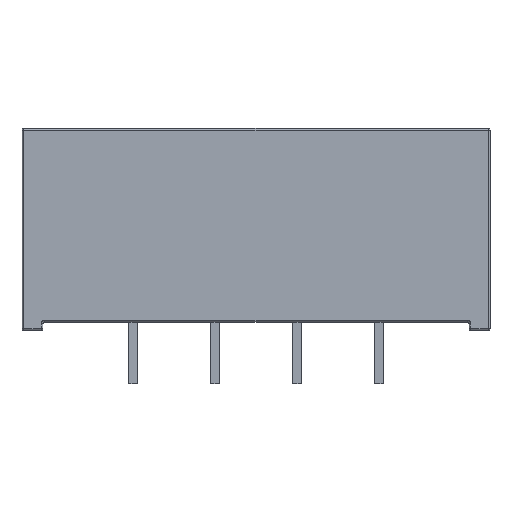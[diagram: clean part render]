
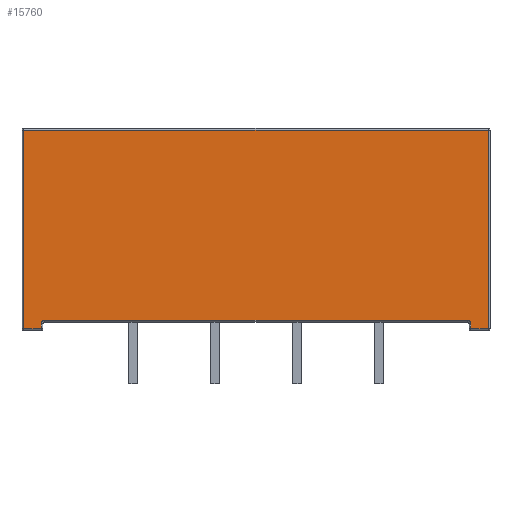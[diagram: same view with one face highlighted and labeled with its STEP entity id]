
A CAD part, top view. The second image highlights one B-rep face of the part: STEP entity #15760.
In plain terms, the highlighted planar face has unit normal (0, 0, 1).
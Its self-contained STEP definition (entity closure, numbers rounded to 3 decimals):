
#15701 = ORIENTED_EDGE ( 'NONE', *, *, #15702, .T. ) ;
#15702 = EDGE_CURVE ( 'NONE', #15788, #15703, #22567, .T. ) ;
#15703 = VERTEX_POINT ( 'NONE', #22563 ) ;
#15704 = ORIENTED_EDGE ( 'NONE', *, *, #15705, .T. ) ;
#15705 = EDGE_CURVE ( 'NONE', #15703, #15706, #22562, .T. ) ;
#15706 = VERTEX_POINT ( 'NONE', #22558 ) ;
#15707 = ORIENTED_EDGE ( 'NONE', *, *, #15708, .T. ) ;
#15708 = EDGE_CURVE ( 'NONE', #15706, #15709, #22557, .T. ) ;
#15709 = VERTEX_POINT ( 'NONE', #22553 ) ;
#15710 = ORIENTED_EDGE ( 'NONE', *, *, #15716, .T. ) ;
#15711 = VERTEX_POINT ( 'NONE', #22552 ) ;
#15716 = EDGE_CURVE ( 'NONE', #15709, #15711, #22544, .T. ) ;
#15717 = ORIENTED_EDGE ( 'NONE', *, *, #15719, .T. ) ;
#15719 = EDGE_CURVE ( 'NONE', #15711, #15720, #22604, .T. ) ;
#15720 = VERTEX_POINT ( 'NONE', #22600 ) ;
#15721 = ORIENTED_EDGE ( 'NONE', *, *, #15722, .T. ) ;
#15722 = EDGE_CURVE ( 'NONE', #15720, #15765, #22599, .T. ) ;
#15760 = ADVANCED_FACE ( 'NONE', ( #22651 ), #22649, .F. ) ;
#15761 = EDGE_LOOP ( 'NONE', ( #15762, #15766, #15769, #15786, #15701, #15704, #15707, #15710, #15717, #15721 ) ) ;
#15762 = ORIENTED_EDGE ( 'NONE', *, *, #15763, .F. ) ;
#15763 = EDGE_CURVE ( 'NONE', #15764, #15765, #22644, .T. ) ;
#15764 = VERTEX_POINT ( 'NONE', #22640 ) ;
#15765 = VERTEX_POINT ( 'NONE', #22639 ) ;
#15766 = ORIENTED_EDGE ( 'NONE', *, *, #15767, .T. ) ;
#15767 = EDGE_CURVE ( 'NONE', #15764, #15768, #22638, .T. ) ;
#15768 = VERTEX_POINT ( 'NONE', #22697 ) ;
#15769 = ORIENTED_EDGE ( 'NONE', *, *, #15770, .F. ) ;
#15770 = EDGE_CURVE ( 'NONE', #15771, #15768, #22696, .T. ) ;
#15771 = VERTEX_POINT ( 'NONE', #22691 ) ;
#15786 = ORIENTED_EDGE ( 'NONE', *, *, #15787, .T. ) ;
#15787 = EDGE_CURVE ( 'NONE', #15771, #15788, #22728, .T. ) ;
#15788 = VERTEX_POINT ( 'NONE', #22724 ) ;
#22541 = DIRECTION ( 'NONE',  ( 0., -1., 0. ) ) ;
#22542 = VECTOR ( 'NONE', #22541, 1000. ) ;
#22543 = CARTESIAN_POINT ( 'NONE',  ( -14.4, 11.992, 3.11 ) ) ;
#22544 = LINE ( 'NONE', #22543, #22542 ) ;
#22552 = CARTESIAN_POINT ( 'NONE',  ( -14.4, -0.408, 3.11 ) ) ;
#22553 = CARTESIAN_POINT ( 'NONE',  ( -14.4, 11.892, 3.11 ) ) ;
#22554 = DIRECTION ( 'NONE',  ( -1., 0., 0. ) ) ;
#22555 = VECTOR ( 'NONE', #22554, 1000. ) ;
#22556 = CARTESIAN_POINT ( 'NONE',  ( -14.5, 11.892, 3.11 ) ) ;
#22557 = LINE ( 'NONE', #22556, #22555 ) ;
#22558 = CARTESIAN_POINT ( 'NONE',  ( 14.4, 11.892, 3.11 ) ) ;
#22559 = DIRECTION ( 'NONE',  ( 0., 1., 0. ) ) ;
#22560 = VECTOR ( 'NONE', #22559, 1000. ) ;
#22561 = CARTESIAN_POINT ( 'NONE',  ( 14.4, 11.992, 3.11 ) ) ;
#22562 = LINE ( 'NONE', #22561, #22560 ) ;
#22563 = CARTESIAN_POINT ( 'NONE',  ( 14.4, -0.408, 3.11 ) ) ;
#22564 = DIRECTION ( 'NONE',  ( 1., 0., 0. ) ) ;
#22565 = VECTOR ( 'NONE', #22564, 1000. ) ;
#22566 = CARTESIAN_POINT ( 'NONE',  ( 14.5, -0.408, 3.11 ) ) ;
#22567 = LINE ( 'NONE', #22566, #22565 ) ;
#22596 = DIRECTION ( 'NONE',  ( 0., 1., 0. ) ) ;
#22597 = VECTOR ( 'NONE', #22596, 1000. ) ;
#22598 = CARTESIAN_POINT ( 'NONE',  ( -13.3, 11.992, 3.11 ) ) ;
#22599 = LINE ( 'NONE', #22598, #22597 ) ;
#22600 = CARTESIAN_POINT ( 'NONE',  ( -13.3, -0.408, 3.11 ) ) ;
#22601 = DIRECTION ( 'NONE',  ( 1., 0., 0. ) ) ;
#22602 = VECTOR ( 'NONE', #22601, 1000. ) ;
#22603 = CARTESIAN_POINT ( 'NONE',  ( -13.2, -0.408, 3.11 ) ) ;
#22604 = LINE ( 'NONE', #22603, #22602 ) ;
#22637 = CARTESIAN_POINT ( 'NONE',  ( 14.5, 0.1, 3.11 ) ) ;
#22638 = LINE ( 'NONE', #22637, #22699 ) ;
#22639 = CARTESIAN_POINT ( 'NONE',  ( -13.3, -0.1, 3.11 ) ) ;
#22640 = CARTESIAN_POINT ( 'NONE',  ( -13.1, 0.1, 3.11 ) ) ;
#22641 = DIRECTION ( 'NONE',  ( -1., 0., 0. ) ) ;
#22642 = DIRECTION ( 'NONE',  ( 0., 0., 1. ) ) ;
#22643 = AXIS2_PLACEMENT_3D ( 'NONE', #22650, #22642, #22641 ) ;
#22644 = CIRCLE ( 'NONE', #22643, 0.2 ) ;
#22645 = DIRECTION ( 'NONE',  ( -1., 0., 0. ) ) ;
#22646 = DIRECTION ( 'NONE',  ( 0., 0., -1. ) ) ;
#22647 = CARTESIAN_POINT ( 'NONE',  ( 14.5, 11.992, 3.11 ) ) ;
#22648 = AXIS2_PLACEMENT_3D ( 'NONE', #22647, #22646, #22645 ) ;
#22649 = PLANE ( 'NONE',  #22648 ) ;
#22650 = CARTESIAN_POINT ( 'NONE',  ( -13.1, -0.1, 3.11 ) ) ;
#22651 = FACE_OUTER_BOUND ( 'NONE', #15761, .T. ) ;
#22691 = CARTESIAN_POINT ( 'NONE',  ( 13.3, -0.1, 3.11 ) ) ;
#22692 = DIRECTION ( 'NONE',  ( -1., 0., 0. ) ) ;
#22693 = DIRECTION ( 'NONE',  ( 0., 0., 1. ) ) ;
#22694 = CARTESIAN_POINT ( 'NONE',  ( 13.1, -0.1, 3.11 ) ) ;
#22695 = AXIS2_PLACEMENT_3D ( 'NONE', #22694, #22693, #22692 ) ;
#22696 = CIRCLE ( 'NONE', #22695, 0.2 ) ;
#22697 = CARTESIAN_POINT ( 'NONE',  ( 13.1, 0.1, 3.11 ) ) ;
#22698 = DIRECTION ( 'NONE',  ( 1., 0., 0. ) ) ;
#22699 = VECTOR ( 'NONE', #22698, 1000. ) ;
#22724 = CARTESIAN_POINT ( 'NONE',  ( 13.3, -0.408, 3.11 ) ) ;
#22725 = DIRECTION ( 'NONE',  ( 0., -1., 0. ) ) ;
#22726 = VECTOR ( 'NONE', #22725, 1000. ) ;
#22727 = CARTESIAN_POINT ( 'NONE',  ( 13.3, -0.508, 3.11 ) ) ;
#22728 = LINE ( 'NONE', #22727, #22726 ) ;
